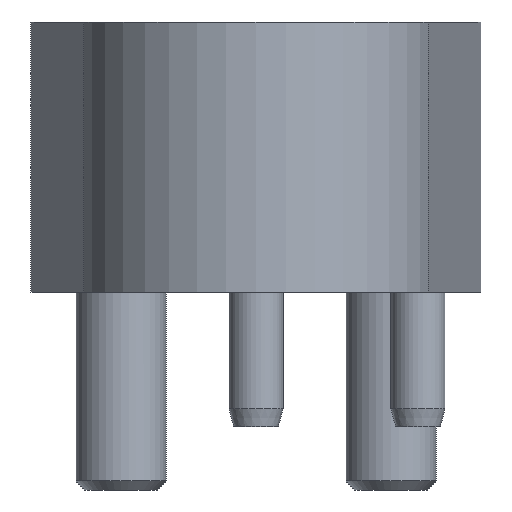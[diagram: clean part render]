
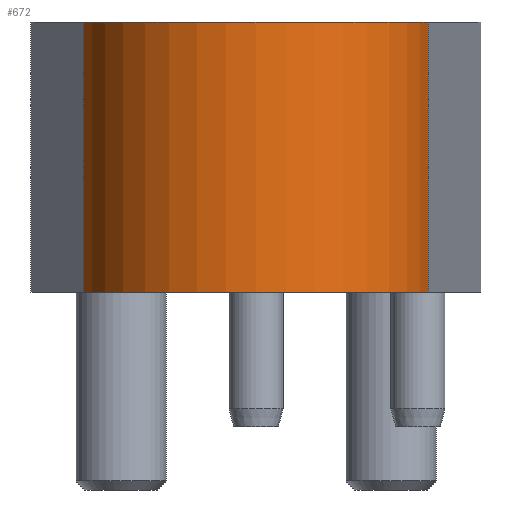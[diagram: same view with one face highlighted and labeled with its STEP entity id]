
A CAD part, left-side view. The second image highlights one B-rep face of the part: STEP entity #672.
In plain terms, the highlighted cylindrical face has radius 19.5 mm (diameter 39 mm), a partial arc.
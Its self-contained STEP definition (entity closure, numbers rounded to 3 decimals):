
#147=CYLINDRICAL_SURFACE('',#2282,19.5);
#222=FACE_OUTER_BOUND('',#913,.T.);
#362=LINE('',#3331,#526);
#365=LINE('',#3337,#529);
#526=VECTOR('',#2657,1.);
#529=VECTOR('',#2662,1.);
#672=ADVANCED_FACE('',(#222),#147,.T.);
#913=EDGE_LOOP('',(#1191,#1192,#1193,#1194));
#1191=ORIENTED_EDGE('',*,*,#1884,.T.);
#1192=ORIENTED_EDGE('',*,*,#1885,.F.);
#1193=ORIENTED_EDGE('',*,*,#1881,.F.);
#1194=ORIENTED_EDGE('',*,*,#1886,.T.);
#1667=VERTEX_POINT('',#3332);
#1668=VERTEX_POINT('',#3333);
#1669=VERTEX_POINT('',#3338);
#1670=VERTEX_POINT('',#3339);
#1881=EDGE_CURVE('',#1667,#1668,#362,.T.);
#1884=EDGE_CURVE('',#1669,#1670,#365,.T.);
#1885=EDGE_CURVE('',#1668,#1670,#2117,.T.);
#1886=EDGE_CURVE('',#1667,#1669,#2118,.T.);
#2117=CIRCLE('',#2280,19.5);
#2118=CIRCLE('',#2281,19.5);
#2280=AXIS2_PLACEMENT_3D('',#3340,#2663,#2664);
#2281=AXIS2_PLACEMENT_3D('',#3341,#2665,#2666);
#2282=AXIS2_PLACEMENT_3D('',#3342,#2667,#2668);
#2657=DIRECTION('',(0.,0.,1.));
#2662=DIRECTION('',(0.,0.,1.));
#2663=DIRECTION('',(0.,0.,1.));
#2664=DIRECTION('',(-0.106,0.994,0.));
#2665=DIRECTION('',(0.,0.,1.));
#2666=DIRECTION('',(-0.106,0.994,0.));
#2667=DIRECTION('',(0.,0.,1.));
#2668=DIRECTION('',(-1.,0.,0.));
#3331=CARTESIAN_POINT('',(-3.771,19.132,0.));
#3332=CARTESIAN_POINT('',(-3.771,19.132,0.));
#3333=CARTESIAN_POINT('',(-3.771,19.132,30.));
#3337=CARTESIAN_POINT('',(-3.771,-19.132,0.));
#3338=CARTESIAN_POINT('',(-3.771,-19.132,0.));
#3339=CARTESIAN_POINT('',(-3.771,-19.132,30.));
#3340=CARTESIAN_POINT('',(0.,0.,30.));
#3341=CARTESIAN_POINT('',(0.,0.,0.));
#3342=CARTESIAN_POINT('',(0.,0.,0.));
